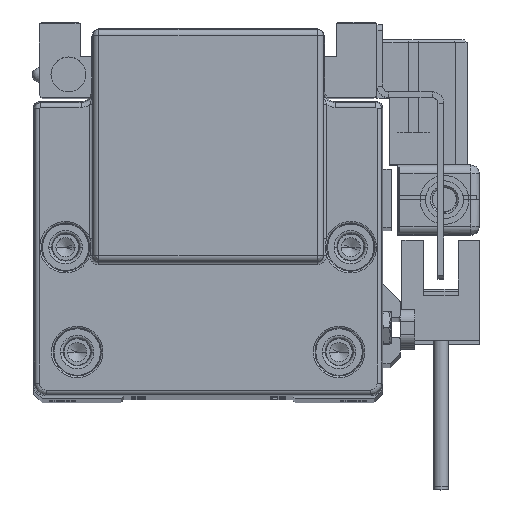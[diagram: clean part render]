
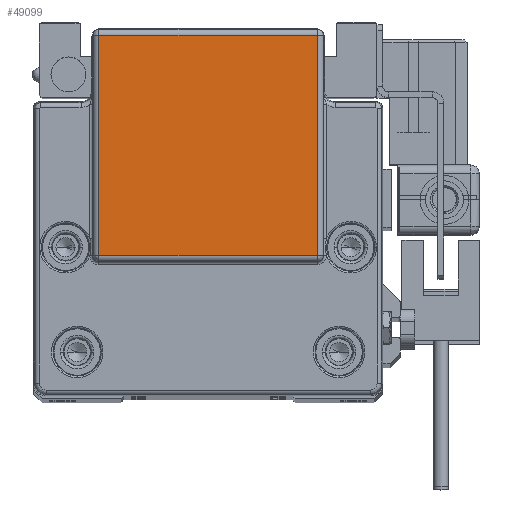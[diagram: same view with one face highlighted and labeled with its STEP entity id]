
A CAD part, top view. The second image highlights one B-rep face of the part: STEP entity #49099.
In plain terms, the highlighted planar face has unit normal (0, 0, 1) as drawn and (0, 0, -1) by its records, which use the part's own axes.
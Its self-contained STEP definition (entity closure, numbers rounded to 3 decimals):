
#1580 = CARTESIAN_POINT ( 'NONE',  ( 19., 62.447, -143. ) ) ;
#4281 = CARTESIAN_POINT ( 'NONE',  ( 19., 24.5, -143. ) ) ;
#4327 = VECTOR ( 'NONE', #9791, 1000. ) ;
#7333 = ORIENTED_EDGE ( 'NONE', *, *, #43522, .F. ) ;
#9791 = DIRECTION ( 'NONE',  ( 0., 1., 0. ) ) ;
#10084 = CARTESIAN_POINT ( 'NONE',  ( 18.808, 62.447, -143. ) ) ;
#11264 = EDGE_CURVE ( 'NONE', #51311, #19255, #62771, .T. ) ;
#12044 = EDGE_CURVE ( 'NONE', #36760, #41723, #53692, .T. ) ;
#17812 = CARTESIAN_POINT ( 'NONE',  ( -18.808, 31., -143. ) ) ;
#19255 = VERTEX_POINT ( 'NONE', #34656 ) ;
#19308 = DIRECTION ( 'NONE',  ( 0., 1., 0. ) ) ;
#19590 = CARTESIAN_POINT ( 'NONE',  ( 18.808, 24.5, -143. ) ) ;
#23544 = PLANE ( 'NONE',  #56448 ) ;
#23791 = VECTOR ( 'NONE', #26936, 1000. ) ;
#26936 = DIRECTION ( 'NONE',  ( 0., -1., 0. ) ) ;
#27167 = DIRECTION ( 'NONE',  ( 1., 0., 0. ) ) ;
#27743 = VECTOR ( 'NONE', #27167, 1000. ) ;
#27999 = VECTOR ( 'NONE', #37452, 1000. ) ;
#29397 = FACE_OUTER_BOUND ( 'NONE', #56128, .T. ) ;
#31072 = CARTESIAN_POINT ( 'NONE',  ( -18.808, 62.447, -143. ) ) ;
#32696 = CARTESIAN_POINT ( 'NONE',  ( 19., 24.518, -143. ) ) ;
#32753 = ORIENTED_EDGE ( 'NONE', *, *, #63111, .F. ) ;
#34656 = CARTESIAN_POINT ( 'NONE',  ( 18.808, 24.518, -143. ) ) ;
#36760 = VERTEX_POINT ( 'NONE', #31072 ) ;
#37452 = DIRECTION ( 'NONE',  ( 1., 0., 0. ) ) ;
#41723 = VERTEX_POINT ( 'NONE', #10084 ) ;
#43522 = EDGE_CURVE ( 'NONE', #36760, #51311, #62543, .T. ) ;
#45158 = CARTESIAN_POINT ( 'NONE',  ( -18.808, 24.518, -143. ) ) ;
#49099 = ADVANCED_FACE ( 'NONE', ( #29397 ), #23544, .T. ) ;
#51311 = VERTEX_POINT ( 'NONE', #45158 ) ;
#52197 = ORIENTED_EDGE ( 'NONE', *, *, #12044, .T. ) ;
#53692 = LINE ( 'NONE', #1580, #27999 ) ;
#55136 = LINE ( 'NONE', #19590, #4327 ) ;
#56128 = EDGE_LOOP ( 'NONE', ( #32753, #59564, #7333, #52197 ) ) ;
#56448 = AXIS2_PLACEMENT_3D ( 'NONE', #4281, #59454, #19308 ) ;
#59454 = DIRECTION ( 'NONE',  ( 0., 0., -1. ) ) ;
#59564 = ORIENTED_EDGE ( 'NONE', *, *, #11264, .F. ) ;
#62543 = LINE ( 'NONE', #17812, #23791 ) ;
#62771 = LINE ( 'NONE', #32696, #27743 ) ;
#63111 = EDGE_CURVE ( 'NONE', #19255, #41723, #55136, .T. ) ;
